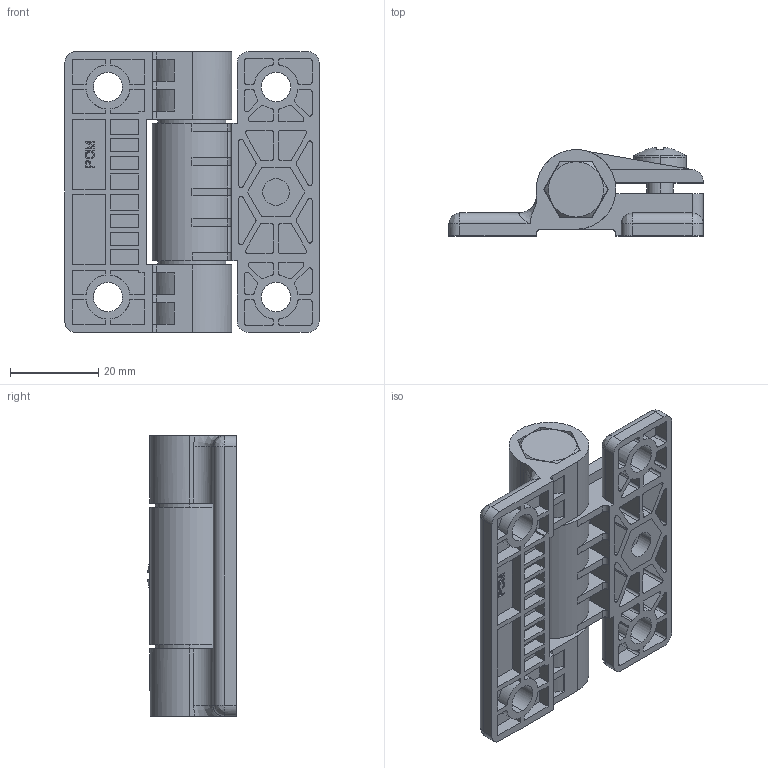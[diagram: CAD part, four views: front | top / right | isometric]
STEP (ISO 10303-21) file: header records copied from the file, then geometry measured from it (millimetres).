
FILE_DESCRIPTION (( 'STEP AP203' ), '1' );
FILE_NAME ('XG11-062.STEP', '2025-08-02T08:45:30', ( '微软用户' ), ( '微软中国' ), 'SwSTEP 2.0', 'SolidWorks 2024', '' );
FILE_SCHEMA (( 'CONFIG_CONTROL_DESIGN' ));
Length unit declared in the file: millimetre
Products named in the file (1): XG11-062
Bounding box: 57.5 x 19.98 x 63.5 mm (x, y, z)
Volume: 28298.5 mm3; surface area: 22797.8 mm2
Topology: 5 solids, 5 shells, 615 faces, 1619 edges, 1053 vertices
Faces by surface type: plane 390, cylinder 182, cone 30, bspline 13
Entity records: 21120 total; most frequent: CARTESIAN_POINT 5876, ORIENTED_EDGE 3222, DIRECTION 3015, EDGE_CURVE 1611, VECTOR 1117, LINE 1117, VERTEX_POINT 1053, AXIS2_PLACEMENT_3D 949
